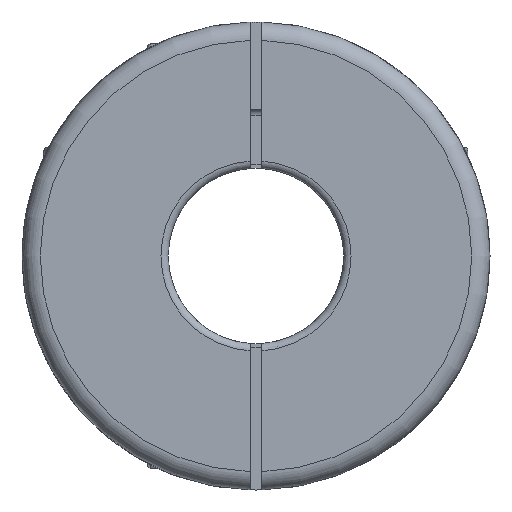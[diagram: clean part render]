
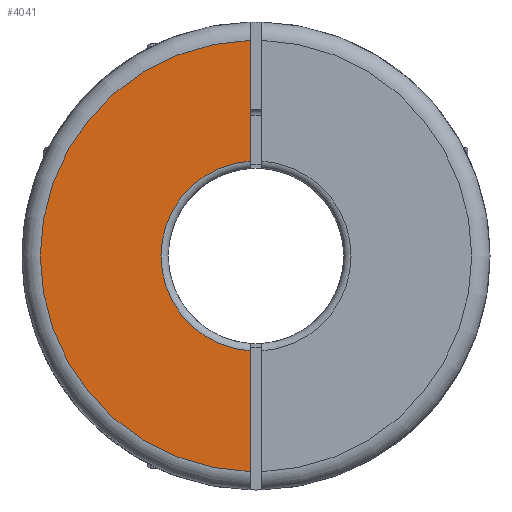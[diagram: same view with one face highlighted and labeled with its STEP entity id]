
A CAD part, left-side view. The second image highlights one B-rep face of the part: STEP entity #4041.
In plain terms, the highlighted planar face has unit normal (-1, 0, 0).
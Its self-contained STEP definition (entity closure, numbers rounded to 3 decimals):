
#359 = DIRECTION ( 'NONE',  ( 1., 0., 0. ) ) ;
#396 = EDGE_LOOP ( 'NONE', ( #4135, #2623, #2519, #4245 ) ) ;
#780 = CARTESIAN_POINT ( 'NONE',  ( -16., 0.4, 15.995 ) ) ;
#979 = CARTESIAN_POINT ( 'NONE',  ( -16., 0., 0. ) ) ;
#1179 = DIRECTION ( 'NONE',  ( 0., 0., 1. ) ) ;
#1245 = VERTEX_POINT ( 'NONE', #2431 ) ;
#1365 = DIRECTION ( 'NONE',  ( 0., 0., -1. ) ) ;
#1413 = DIRECTION ( 'NONE',  ( 1., 0., 0. ) ) ;
#1556 = CARTESIAN_POINT ( 'NONE',  ( -16., 0.4, 15.995 ) ) ;
#1612 = CIRCLE ( 'NONE', #4409, 6.5 ) ;
#1761 = EDGE_CURVE ( 'NONE', #3481, #3697, #1865, .T. ) ;
#1791 = VECTOR ( 'NONE', #2357, 1000. ) ;
#1865 = CIRCLE ( 'NONE', #4427, 14.75 ) ;
#1886 = EDGE_CURVE ( 'NONE', #1245, #3513, #1612, .T. ) ;
#1961 = AXIS2_PLACEMENT_3D ( 'NONE', #4310, #359, #3142 ) ;
#2043 = LINE ( 'NONE', #1556, #4123 ) ;
#2112 = EDGE_CURVE ( 'NONE', #3697, #1245, #2043, .T. ) ;
#2144 = EDGE_CURVE ( 'NONE', #3513, #3481, #3873, .T. ) ;
#2357 = DIRECTION ( 'NONE',  ( 0., 0., 1. ) ) ;
#2431 = CARTESIAN_POINT ( 'NONE',  ( -16., 0.4, -6.488 ) ) ;
#2519 = ORIENTED_EDGE ( 'NONE', *, *, #2144, .T. ) ;
#2623 = ORIENTED_EDGE ( 'NONE', *, *, #1886, .T. ) ;
#3123 = CARTESIAN_POINT ( 'NONE',  ( -16., 0.4, 6.488 ) ) ;
#3142 = DIRECTION ( 'NONE',  ( 0., 0., -1. ) ) ;
#3481 = VERTEX_POINT ( 'NONE', #4647 ) ;
#3513 = VERTEX_POINT ( 'NONE', #3123 ) ;
#3697 = VERTEX_POINT ( 'NONE', #3734 ) ;
#3704 = DIRECTION ( 'NONE',  ( -1., 0., 0. ) ) ;
#3734 = CARTESIAN_POINT ( 'NONE',  ( -16., 0.4, -14.745 ) ) ;
#3748 = CARTESIAN_POINT ( 'NONE',  ( -16., 0., 0. ) ) ;
#3873 = LINE ( 'NONE', #780, #1791 ) ;
#4041 = ADVANCED_FACE ( 'NONE', ( #4563 ), #4667, .F. ) ;
#4123 = VECTOR ( 'NONE', #1179, 1000. ) ;
#4135 = ORIENTED_EDGE ( 'NONE', *, *, #2112, .T. ) ;
#4145 = DIRECTION ( 'NONE',  ( 0., 0., -1. ) ) ;
#4245 = ORIENTED_EDGE ( 'NONE', *, *, #1761, .T. ) ;
#4310 = CARTESIAN_POINT ( 'NONE',  ( -16., 0., 0. ) ) ;
#4409 = AXIS2_PLACEMENT_3D ( 'NONE', #3748, #1413, #4145 ) ;
#4427 = AXIS2_PLACEMENT_3D ( 'NONE', #979, #3704, #1365 ) ;
#4563 = FACE_OUTER_BOUND ( 'NONE', #396, .T. ) ;
#4647 = CARTESIAN_POINT ( 'NONE',  ( -16., 0.4, 14.745 ) ) ;
#4667 = PLANE ( 'NONE',  #1961 ) ;
